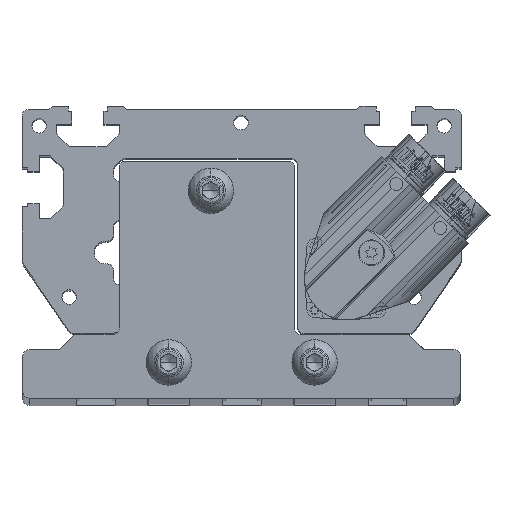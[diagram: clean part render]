
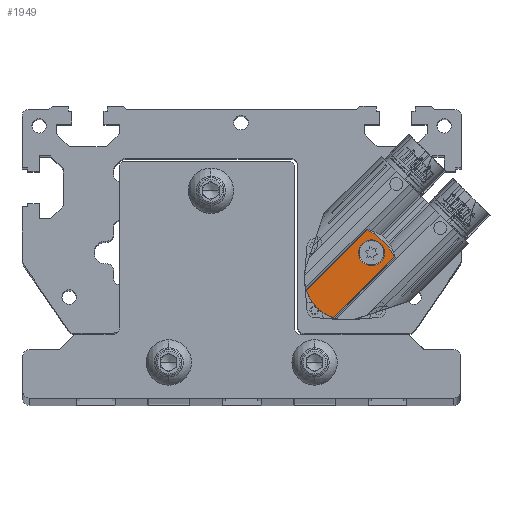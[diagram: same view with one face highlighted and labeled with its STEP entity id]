
A CAD part, top view. The second image highlights one B-rep face of the part: STEP entity #1949.
In plain terms, the highlighted planar face has unit normal (0, 0, 1).
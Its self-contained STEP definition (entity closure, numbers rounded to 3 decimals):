
#1949 = ADVANCED_FACE ( 'NONE', ( #35583, #35585 ), #33964, .T. ) ;
#2242 = EDGE_CURVE ( 'NONE', #8169, #16351, #28043, .T. ) ;
#2243 = EDGE_CURVE ( 'NONE', #7925, #7943, #28046, .T. ) ;
#3206 = B_SPLINE_CURVE_WITH_KNOTS ( 'NONE', 3,
 ( #17178, #17179, #17180, #17181, #17182, #17183, #17184, #17185, #17186, #17187, #17188, #17189 ),
 .UNSPECIFIED., .F., .F.,
 ( 4, 2, 2, 2, 2, 4 ),
 ( 0., 0.003, 0.006, 0.007, 0.009, 0.012 ),
 .UNSPECIFIED. ) ;
#4256 = EDGE_CURVE ( 'NONE', #8169, #8031, #28861, .T. ) ;
#4258 = EDGE_CURVE ( 'NONE', #8031, #8081, #3206, .T. ) ;
#7925 = VERTEX_POINT ( 'NONE', #21378 ) ;
#7943 = VERTEX_POINT ( 'NONE', #21396 ) ;
#8031 = VERTEX_POINT ( 'NONE', #21484 ) ;
#8081 = VERTEX_POINT ( 'NONE', #21534 ) ;
#8169 = VERTEX_POINT ( 'NONE', #21622 ) ;
#11954 = AXIS2_PLACEMENT_3D ( 'NONE', #20220, #20221, #20222 ) ;
#14302 = EDGE_CURVE ( 'NONE', #7943, #7925, #23987, .T. ) ;
#14402 = EDGE_CURVE ( 'NONE', #8081, #16351, #24106, .T. ) ;
#16351 = VERTEX_POINT ( 'NONE', #31990 ) ;
#17172 = CARTESIAN_POINT ( 'NONE',  ( 13.735, 5.428, 18.8 ) ) ;
#17173 = DIRECTION ( 'NONE',  ( 0.707, 0.707, 0. ) ) ;
#17178 = CARTESIAN_POINT ( 'NONE',  ( 14.874, 6.567, 18.8 ) ) ;
#17179 = CARTESIAN_POINT ( 'NONE',  ( 14.421, 7.463, 18.8 ) ) ;
#17180 = CARTESIAN_POINT ( 'NONE',  ( 13.902, 8.311, 18.8 ) ) ;
#17181 = CARTESIAN_POINT ( 'NONE',  ( 12.741, 9.914, 18.8 ) ) ;
#17182 = CARTESIAN_POINT ( 'NONE',  ( 12.098, 10.67, 18.8 ) ) ;
#17183 = CARTESIAN_POINT ( 'NONE',  ( 11.037, 11.732, 18.8 ) ) ;
#17184 = CARTESIAN_POINT ( 'NONE',  ( 10.668, 12.073, 18.8 ) ) ;
#17185 = CARTESIAN_POINT ( 'NONE',  ( 9.909, 12.72, 18.8 ) ) ;
#17186 = CARTESIAN_POINT ( 'NONE',  ( 9.519, 13.027, 18.8 ) ) ;
#17187 = CARTESIAN_POINT ( 'NONE',  ( 8.312, 13.902, 18.8 ) ) ;
#17188 = CARTESIAN_POINT ( 'NONE',  ( 7.463, 14.421, 18.8 ) ) ;
#17189 = CARTESIAN_POINT ( 'NONE',  ( 6.567, 14.874, 18.8 ) ) ;
#20220 = CARTESIAN_POINT ( 'NONE',  ( 7.778, 7.778, 18.8 ) ) ;
#20221 = DIRECTION ( 'NONE',  ( 0., 0., -1. ) ) ;
#20222 = DIRECTION ( 'NONE',  ( -0.707, -0.707, 0. ) ) ;
#20588 = CARTESIAN_POINT ( 'NONE',  ( 5.428, 13.735, 18.8 ) ) ;
#20589 = DIRECTION ( 'NONE',  ( -0.707, -0.707, 0. ) ) ;
#21378 = CARTESIAN_POINT ( 'NONE',  ( 10.607, 10.607, 18.8 ) ) ;
#21396 = CARTESIAN_POINT ( 'NONE',  ( 4.95, 4.95, 18.8 ) ) ;
#21484 = CARTESIAN_POINT ( 'NONE',  ( 14.874, 6.567, 18.8 ) ) ;
#21534 = CARTESIAN_POINT ( 'NONE',  ( 6.567, 14.874, 18.8 ) ) ;
#21622 = CARTESIAN_POINT ( 'NONE',  ( -3.968, -12.275, 18.8 ) ) ;
#22545 = CARTESIAN_POINT ( 'NONE',  ( 0., 0., 18.8 ) ) ;
#22546 = DIRECTION ( 'NONE',  ( 0., 0., -1. ) ) ;
#22547 = DIRECTION ( 'NONE',  ( 0.707, -0.707, 0. ) ) ;
#22548 = CARTESIAN_POINT ( 'NONE',  ( 7.778, 7.778, 18.8 ) ) ;
#22549 = DIRECTION ( 'NONE',  ( 0., 0., -1. ) ) ;
#22550 = DIRECTION ( 'NONE',  ( -0.707, -0.707, 0. ) ) ;
#23987 = CIRCLE ( 'NONE', #11954, 4. ) ;
#24106 = LINE ( 'NONE', #20588, #24107 ) ;
#24107 = VECTOR ( 'NONE', #20589, 1000. ) ;
#26024 = ORIENTED_EDGE ( 'NONE', *, *, #4256, .T. ) ;
#26025 = ORIENTED_EDGE ( 'NONE', *, *, #2242, .F. ) ;
#26026 = ORIENTED_EDGE ( 'NONE', *, *, #2243, .T. ) ;
#26027 = ORIENTED_EDGE ( 'NONE', *, *, #14302, .T. ) ;
#28043 = CIRCLE ( 'NONE', #35541, 12.9 ) ;
#28046 = CIRCLE ( 'NONE', #35542, 4. ) ;
#28570 = ORIENTED_EDGE ( 'NONE', *, *, #14402, .T. ) ;
#28572 = ORIENTED_EDGE ( 'NONE', *, *, #4258, .T. ) ;
#28832 = EDGE_LOOP ( 'NONE', ( #26027, #26026 ) ) ;
#28834 = EDGE_LOOP ( 'NONE', ( #26025, #26024, #28572, #28570 ) ) ;
#28861 = LINE ( 'NONE', #17172, #28863 ) ;
#28863 = VECTOR ( 'NONE', #17173, 1000. ) ;
#31990 = CARTESIAN_POINT ( 'NONE',  ( -12.275, -3.968, 18.8 ) ) ;
#33964 = PLANE ( 'NONE',  #35252 ) ;
#33965 = CARTESIAN_POINT ( 'NONE',  ( 9.581, 9.581, 18.8 ) ) ;
#33966 = DIRECTION ( 'NONE',  ( 0., 0., 1. ) ) ;
#33967 = DIRECTION ( 'NONE',  ( 0.707, -0.707, 0. ) ) ;
#35252 = AXIS2_PLACEMENT_3D ( 'NONE', #33965, #33966, #33967 ) ;
#35541 = AXIS2_PLACEMENT_3D ( 'NONE', #22545, #22546, #22547 ) ;
#35542 = AXIS2_PLACEMENT_3D ( 'NONE', #22548, #22549, #22550 ) ;
#35583 = FACE_BOUND ( 'NONE', #28832, .T. ) ;
#35585 = FACE_OUTER_BOUND ( 'NONE', #28834, .T. ) ;
